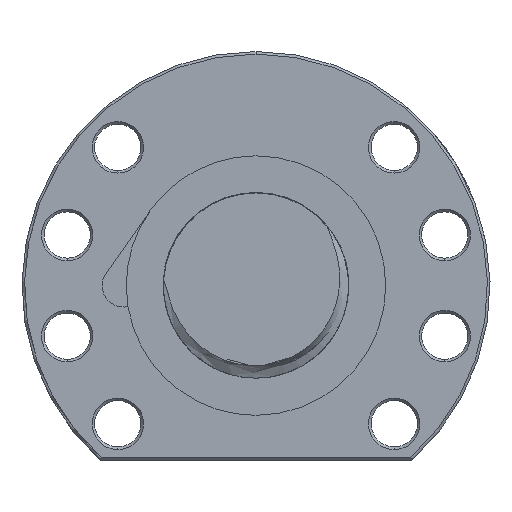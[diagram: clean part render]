
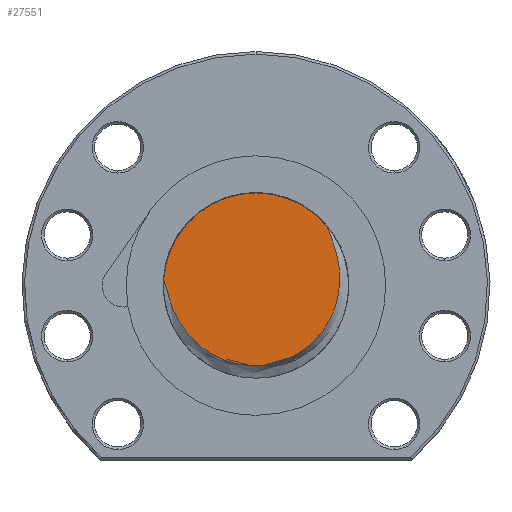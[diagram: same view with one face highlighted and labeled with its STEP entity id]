
A CAD part, left-side view. The second image highlights one B-rep face of the part: STEP entity #27551.
In plain terms, the highlighted planar face has unit normal (-1, 0, 0).
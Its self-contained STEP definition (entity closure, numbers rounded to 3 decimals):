
#6892 = DIRECTION ( 'NONE',  ( 1., 0., 0. ) ) ;
#6895 = AXIS2_PLACEMENT_3D ( 'NONE', #6915, #6892, #6957 ) ;
#6915 = CARTESIAN_POINT ( 'NONE',  ( -203., 0., 0. ) ) ;
#6957 = DIRECTION ( 'NONE',  ( 0., 1., 0. ) ) ;
#6986 = CIRCLE ( 'NONE', #6895, 18. ) ;
#8281 = CARTESIAN_POINT ( 'NONE',  ( -203., 0., 18. ) ) ;
#8321 = CARTESIAN_POINT ( 'NONE',  ( -203., 17.958, 1.228 ) ) ;
#8669 = CARTESIAN_POINT ( 'NONE',  ( -203., 0., 0. ) ) ;
#8672 = DIRECTION ( 'NONE',  ( 0., 1., 0. ) ) ;
#8673 = DIRECTION ( 'NONE',  ( 1., 0., 0. ) ) ;
#8674 = AXIS2_PLACEMENT_3D ( 'NONE', #8669, #8673, #8672 ) ;
#8675 = CIRCLE ( 'NONE', #8674, 18. ) ;
#8797 = DIRECTION ( 'NONE',  ( 0., 0., -1. ) ) ;
#8798 = DIRECTION ( 'NONE',  ( 1., 0., 0. ) ) ;
#8799 = CARTESIAN_POINT ( 'NONE',  ( -203., 0., 0. ) ) ;
#8821 = CARTESIAN_POINT ( 'NONE',  ( -203., -13.808, 11.548 ) ) ;
#8822 = CARTESIAN_POINT ( 'NONE',  ( -203., -13.914, 11.232 ) ) ;
#8823 = CARTESIAN_POINT ( 'NONE',  ( -203., -14.037, 10.923 ) ) ;
#8824 = FACE_OUTER_BOUND ( 'NONE', #27547, .T. ) ;
#8826 = AXIS2_PLACEMENT_3D ( 'NONE', #8799, #8798, #8797 ) ;
#8827 = CARTESIAN_POINT ( 'NONE',  ( -203., 17.287, -1.336 ) ) ;
#8828 = CARTESIAN_POINT ( 'NONE',  ( -203., 17.535, -0.373 ) ) ;
#8829 = CARTESIAN_POINT ( 'NONE',  ( -203., 17.614, -0.051 ) ) ;
#8830 = CARTESIAN_POINT ( 'NONE',  ( -203., 17.777, 0.591 ) ) ;
#8831 = CARTESIAN_POINT ( 'NONE',  ( -203., 17.859, 0.912 ) ) ;
#8832 = CARTESIAN_POINT ( 'NONE',  ( -203., 17.958, 1.228 ) ) ;
#8833 = B_SPLINE_CURVE_WITH_KNOTS ( 'NONE', 3,
 ( #8832, #8831, #8830, #8829, #8828, #8827, #8882, #8881, #8880, #8879, #8878, #8877, #8876, #8875, #8874, #8873, #8872, #8894, #8893, #8892, #8891, #8890, #8889, #8888, #8887, #8886, #8885, #8884, #8883, #8871, #8870, #8869, #8868, #8867, #8866, #8865, #8864, #8863, #8862, #8861, #8860, #8859, #8858, #8857, #8856, #8855, #8854, #8853, #8852, #8851, #8850, #8849, #8848, #8847, #8846, #8845, #8844, #8843, #8842, #8841, #8840, #8839, #8838, #8837, #8836, #8835, #8834, #8823, #8822, #8821 ),
 .UNSPECIFIED., .F., .F.,
 ( 4, 2, 2, 2, 2, 2, 2, 2, 2, 2, 2, 2, 2, 2, 2, 2, 2, 2, 2, 2, 2, 2, 2, 2, 2, 2, 2, 2, 2, 2, 2, 2, 2, 2, 4 ),
 ( 0.001, 0.002, 0.003, 0.005, 0.009, 0.011, 0.012, 0.013, 0.017, 0.018, 0.019, 0.021, 0.023, 0.024, 0.025, 0.028, 0.03, 0.032, 0.034, 0.036, 0.038, 0.039, 0.04, 0.044, 0.046, 0.048, 0.05, 0.051, 0.052, 0.056, 0.058, 0.06, 0.062, 0.063, 0.064 ),
 .UNSPECIFIED. ) ;
#8834 = CARTESIAN_POINT ( 'NONE',  ( -203., -14.283, 10.305 ) ) ;
#8835 = CARTESIAN_POINT ( 'NONE',  ( -203., -14.409, 9.996 ) ) ;
#8836 = CARTESIAN_POINT ( 'NONE',  ( -203., -14.775, 9.068 ) ) ;
#8837 = CARTESIAN_POINT ( 'NONE',  ( -203., -15.007, 8.443 ) ) ;
#8838 = CARTESIAN_POINT ( 'NONE',  ( -203., -15.421, 7.181 ) ) ;
#8839 = CARTESIAN_POINT ( 'NONE',  ( -203., -15.603, 6.543 ) ) ;
#8840 = CARTESIAN_POINT ( 'NONE',  ( -203., -15.906, 5.251 ) ) ;
#8841 = CARTESIAN_POINT ( 'NONE',  ( -203., -16.027, 4.595 ) ) ;
#8842 = CARTESIAN_POINT ( 'NONE',  ( -203., -16.29, 2.621 ) ) ;
#8843 = CARTESIAN_POINT ( 'NONE',  ( -203., -16.331, 1.304 ) ) ;
#8844 = CARTESIAN_POINT ( 'NONE',  ( -203., -16.2, -0.343 ) ) ;
#8845 = CARTESIAN_POINT ( 'NONE',  ( -203., -16.165, -0.672 ) ) ;
#8846 = CARTESIAN_POINT ( 'NONE',  ( -203., -16.075, -1.331 ) ) ;
#8847 = CARTESIAN_POINT ( 'NONE',  ( -203., -16.021, -1.661 ) ) ;
#8848 = CARTESIAN_POINT ( 'NONE',  ( -203., -15.831, -2.638 ) ) ;
#8849 = CARTESIAN_POINT ( 'NONE',  ( -203., -15.67, -3.277 ) ) ;
#8850 = CARTESIAN_POINT ( 'NONE',  ( -203., -15.274, -4.533 ) ) ;
#8851 = CARTESIAN_POINT ( 'NONE',  ( -203., -15.041, -5.15 ) ) ;
#8852 = CARTESIAN_POINT ( 'NONE',  ( -203., -14.5, -6.358 ) ) ;
#8853 = CARTESIAN_POINT ( 'NONE',  ( -203., -14.191, -6.953 ) ) ;
#8854 = CARTESIAN_POINT ( 'NONE',  ( -203., -13.172, -8.658 ) ) ;
#8855 = CARTESIAN_POINT ( 'NONE',  ( -203., -12.369, -9.701 ) ) ;
#8856 = CARTESIAN_POINT ( 'NONE',  ( -203., -11.206, -10.885 ) ) ;
#8857 = CARTESIAN_POINT ( 'NONE',  ( -203., -10.965, -11.117 ) ) ;
#8858 = CARTESIAN_POINT ( 'NONE',  ( -203., -10.471, -11.562 ) ) ;
#8859 = CARTESIAN_POINT ( 'NONE',  ( -203., -10.219, -11.777 ) ) ;
#8860 = CARTESIAN_POINT ( 'NONE',  ( -203., -9.445, -12.395 ) ) ;
#8861 = CARTESIAN_POINT ( 'NONE',  ( -203., -8.907, -12.774 ) ) ;
#8862 = CARTESIAN_POINT ( 'NONE',  ( -203., -7.786, -13.467 ) ) ;
#8863 = CARTESIAN_POINT ( 'NONE',  ( -203., -7.204, -13.78 ) ) ;
#8864 = CARTESIAN_POINT ( 'NONE',  ( -203., -5.994, -14.338 ) ) ;
#8865 = CARTESIAN_POINT ( 'NONE',  ( -203., -5.374, -14.579 ) ) ;
#8866 = CARTESIAN_POINT ( 'NONE',  ( -203., -4.119, -14.983 ) ) ;
#8867 = CARTESIAN_POINT ( 'NONE',  ( -203., -3.482, -15.146 ) ) ;
#8868 = CARTESIAN_POINT ( 'NONE',  ( -203., -2.187, -15.395 ) ) ;
#8869 = CARTESIAN_POINT ( 'NONE',  ( -203., -1.527, -15.481 ) ) ;
#8870 = CARTESIAN_POINT ( 'NONE',  ( -203., 0.466, -15.619 ) ) ;
#8871 = CARTESIAN_POINT ( 'NONE',  ( -203., 1.781, -15.549 ) ) ;
#8872 = CARTESIAN_POINT ( 'NONE',  ( -203., 11.359, -11.403 ) ) ;
#8873 = CARTESIAN_POINT ( 'NONE',  ( -203., 12.314, -10.498 ) ) ;
#8874 = CARTESIAN_POINT ( 'NONE',  ( -203., 13.381, -9.24 ) ) ;
#8875 = CARTESIAN_POINT ( 'NONE',  ( -203., 13.588, -8.982 ) ) ;
#8876 = CARTESIAN_POINT ( 'NONE',  ( -203., 13.989, -8.453 ) ) ;
#8877 = CARTESIAN_POINT ( 'NONE',  ( -203., 14.184, -8.182 ) ) ;
#8878 = CARTESIAN_POINT ( 'NONE',  ( -203., 14.742, -7.357 ) ) ;
#8879 = CARTESIAN_POINT ( 'NONE',  ( -203., 15.081, -6.793 ) ) ;
#8880 = CARTESIAN_POINT ( 'NONE',  ( -203., 16.008, -5.06 ) ) ;
#8881 = CARTESIAN_POINT ( 'NONE',  ( -203., 16.506, -3.85 ) ) ;
#8882 = CARTESIAN_POINT ( 'NONE',  ( -203., 17.11, -1.973 ) ) ;
#8883 = CARTESIAN_POINT ( 'NONE',  ( -203., 3.406, -15.267 ) ) ;
#8884 = CARTESIAN_POINT ( 'NONE',  ( -203., 3.73, -15.201 ) ) ;
#8885 = CARTESIAN_POINT ( 'NONE',  ( -203., 4.376, -15.049 ) ) ;
#8886 = CARTESIAN_POINT ( 'NONE',  ( -203., 4.699, -14.962 ) ) ;
#8887 = CARTESIAN_POINT ( 'NONE',  ( -203., 5.654, -14.676 ) ) ;
#8888 = CARTESIAN_POINT ( 'NONE',  ( -203., 6.273, -14.449 ) ) ;
#8889 = CARTESIAN_POINT ( 'NONE',  ( -203., 7.479, -13.925 ) ) ;
#8890 = CARTESIAN_POINT ( 'NONE',  ( -203., 8.066, -13.628 ) ) ;
#8891 = CARTESIAN_POINT ( 'NONE',  ( -203., 8.921, -13.131 ) ) ;
#8892 = CARTESIAN_POINT ( 'NONE',  ( -203., 9.202, -12.957 ) ) ;
#8893 = CARTESIAN_POINT ( 'NONE',  ( -203., 9.755, -12.591 ) ) ;
#8894 = CARTESIAN_POINT ( 'NONE',  ( -203., 10.029, -12.398 ) ) ;
#8923 = PLANE ( 'NONE',  #8826 ) ;
#8974 = CARTESIAN_POINT ( 'NONE',  ( -203., -13.808, 11.548 ) ) ;
#26628 = EDGE_CURVE ( 'NONE', #26631, #26633, #6986, .T. ) ;
#26631 = VERTEX_POINT ( 'NONE', #8321 ) ;
#26633 = VERTEX_POINT ( 'NONE', #8281 ) ;
#27258 = EDGE_CURVE ( 'NONE', #26633, #27260, #8675, .T. ) ;
#27260 = VERTEX_POINT ( 'NONE', #8974 ) ;
#27547 = EDGE_LOOP ( 'NONE', ( #27553, #27555, #27559 ) ) ;
#27551 = ADVANCED_FACE ( 'NONE', ( #8824 ), #8923, .F. ) ;
#27553 = ORIENTED_EDGE ( 'NONE', *, *, #26628, .F. ) ;
#27555 = ORIENTED_EDGE ( 'NONE', *, *, #27557, .T. ) ;
#27557 = EDGE_CURVE ( 'NONE', #26631, #27260, #8833, .T. ) ;
#27559 = ORIENTED_EDGE ( 'NONE', *, *, #27258, .F. ) ;
